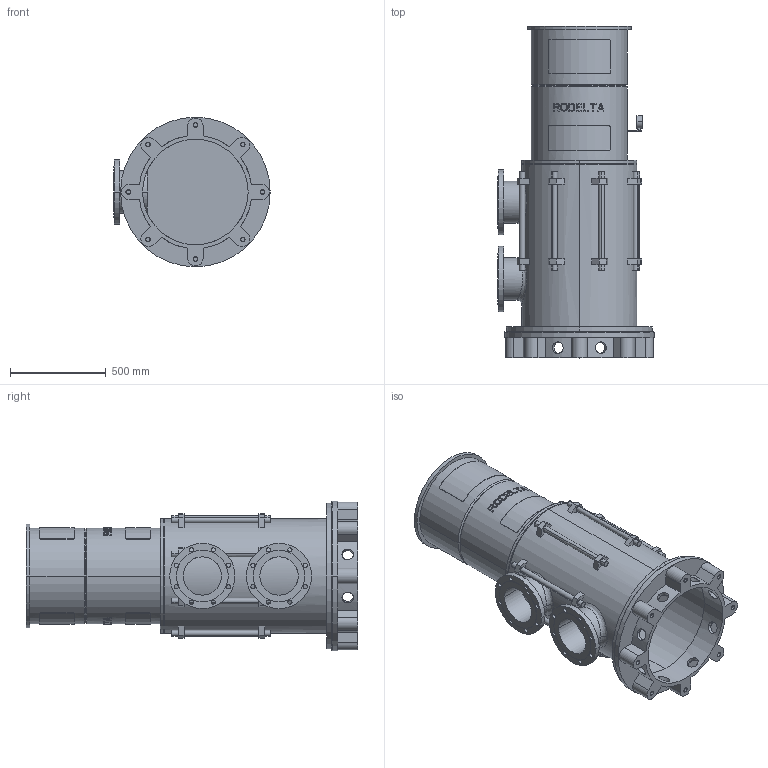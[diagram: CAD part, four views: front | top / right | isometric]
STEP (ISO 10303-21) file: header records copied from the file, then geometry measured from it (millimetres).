
FILE_DESCRIPTION((''),'2;1');
FILE_NAME('LS8_1TR_0GR','2025-10-15T15:08:24',('Lyritlocal'),(''),'CREO PARAMETRIC BY PTC INC, 2022014','CREO PARAMETRIC BY PTC INC, 2022014','');
FILE_SCHEMA(('CONFIG_CONTROL_DESIGN'));
Length unit declared in the file: millimetre
Products named in the file (1): LS8_1TR_0GR
Bounding box: 815 x 1730 x 780 mm (x, y, z)
Volume: 65153732.9 mm3; surface area: 8674256.9 mm2
Topology: 3 solids, 11 shells, 715 faces, 1854 edges, 1230 vertices
Faces by surface type: plane 440, cylinder 259, cone 12, bspline 4
Entity records: 23402 total; most frequent: CARTESIAN_POINT 5969, ORIENTED_EDGE 3676, DIRECTION 3432, EDGE_CURVE 1854, AXIS2_PLACEMENT_3D 1278, VERTEX_POINT 1230, VECTOR 876, LINE 876
